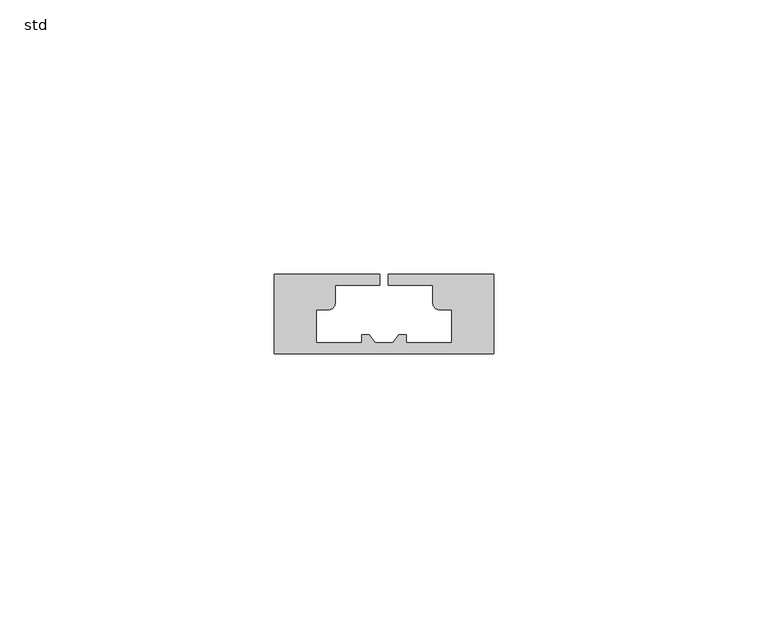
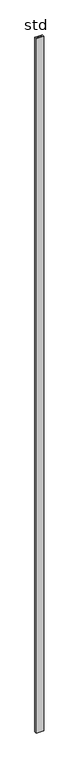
"""IFC4 building model written with IfcOpenShell, lengths in millimetres: column geometry, NLRS_21_COL_drager ST.014_Storax : std."""

import ifcopenshell
import ifcopenshell.guid

model = None  # the IFC model being written
_history = None  # IfcOwnerHistory: only IFC2X3 demands one
_inside = {}  # id of a spatial element -> (the spatial element, [elements in it])
_under = {}  # id of a project, library or spatial element -> (it, [spatial elements below it])
_declared = {}  # id of a project -> (the project, [libraries it declares])
_typed = {}  # id of a type object -> (the type object, [elements of that type])
_made_of = {}  # id of a material, layer set ... -> (it, [elements and type objects made of it])


def new_model(schema):
    """Start an empty IFC model of exactly this schema.

    Asked for "IFC4X3", IfcOpenShell would pick the latest addendum, in which some entities
    have other attributes; the version numbers below select the first issue.
    IFC2X3 requires an IfcOwnerHistory on every rooted entity: one is made here for all.
    """
    global model, _history
    if schema == "IFC4X3":
        model = ifcopenshell.file(schema_version=(4, 3, 0, 0))
    else:
        model = ifcopenshell.file(schema=schema)
    _inside.clear()
    _under.clear()
    _declared.clear()
    _typed.clear()
    _made_of.clear()
    _history = None
    if model.schema == "IFC2X3":
        org = make("IfcOrganization", Name="unknown")
        user = make(
            "IfcPersonAndOrganization",
            ThePerson=make("IfcPerson", FamilyName="unknown"),
            TheOrganization=org,
        )
        app = make(
            "IfcApplication",
            ApplicationDeveloper=org,
            Version="unknown",
            ApplicationFullName="unknown",
            ApplicationIdentifier="unknown",
        )
        _history = make(
            "IfcOwnerHistory",
            OwningUser=user,
            OwningApplication=app,
            ChangeAction="ADDED",
            CreationDate=0,
        )
    return model


def make(cls, **values):
    """One entity of the class cls with the attributes given. An attribute that is None is left unset."""
    return model.create_entity(
        cls, **{name: value for name, value in values.items() if value is not None}
    )


def rooted(cls, **values):
    """An entity with a GlobalId (a new one), such as an element, a storey or a relation."""
    return make(cls, GlobalId=ifcopenshell.guid.new(), OwnerHistory=_history, **values)


def si_unit(unit_type, name, prefix=None):
    """IfcSIUnit, for example si_unit("LENGTHUNIT", "METRE", prefix="MILLI")."""
    return make("IfcSIUnit", UnitType=unit_type, Prefix=prefix, Name=name)


def assignment(units):
    """IfcUnitAssignment: the units of a project."""
    return None if units is None else make("IfcUnitAssignment", Units=units)


def point(xyz):
    """IfcCartesianPoint."""
    return None if xyz is None else make("IfcCartesianPoint", Coordinates=xyz)


def direction(xyz):
    """IfcDirection."""
    return None if xyz is None else make("IfcDirection", DirectionRatios=xyz)


def frame(location, z_axis=None, x_axis=None):
    """IfcAxis2Placement3D, a coordinate frame: its origin and axes. An axis left out is left unset."""
    return make(
        "IfcAxis2Placement3D",
        Location=point(location),
        Axis=direction(z_axis),
        RefDirection=direction(x_axis),
    )


def frame_2d(location, x_axis=None):
    """IfcAxis2Placement2D, a coordinate frame in the plane: its origin and x axis."""
    return make(
        "IfcAxis2Placement2D", Location=point(location), RefDirection=direction(x_axis)
    )


def origin():
    """The frame at (0, 0, 0) with its axes left unset."""
    return frame((0.0, 0.0, 0.0))


def origin_with_axes():
    """The frame at (0, 0, 0) with the z axis (0, 0, 1) and the x axis (1, 0, 0) written out."""
    return frame((0.0, 0.0, 0.0), z_axis=(0.0, 0.0, 1.0), x_axis=(1.0, 0.0, 0.0))


def place(relative_to, where):
    """IfcLocalPlacement: puts the frame where relative to a parent placement (None: the world)."""
    return make(
        "IfcLocalPlacement", PlacementRelTo=relative_to, RelativePlacement=where
    )


def context(
    kind, dimensions, precision=None, world=None, true_north=None, identifier=None
):
    """IfcGeometricRepresentationContext, for example the 3D "Model" context."""
    return make(
        "IfcGeometricRepresentationContext",
        ContextIdentifier=identifier,
        ContextType=kind,
        CoordinateSpaceDimension=dimensions,
        Precision=precision,
        WorldCoordinateSystem=world,
        TrueNorth=true_north,
    )


def project(units=None, contexts=None):
    """IfcProject with its units and contexts."""
    return rooted(
        "IfcProject",
        Name="project",
        RepresentationContexts=contexts,
        UnitsInContext=assignment(units),
    )


def spatial(cls, under=None, at=None, **own):
    """A site, building, storey or space (cls), placed at a placement, below another one or the project."""
    s = rooted(cls, ObjectPlacement=at, **own)
    if under is not None:
        _under.setdefault(under.id(), (under, []))[1].append(s)
    return s


def polyline(points):
    """IfcPolyline through the points."""
    return make("IfcPolyline", Points=[point(p) for p in points])


def circle_curve(where, radius):
    """IfcCircle in the frame where."""
    return make("IfcCircle", Position=where, Radius=radius)


def trimmed(basis, trim1, trim2, sense, master):
    """IfcTrimmedCurve: the piece of a basis curve between two trims."""
    return make(
        "IfcTrimmedCurve",
        BasisCurve=basis,
        Trim1=trim1,
        Trim2=trim2,
        SenseAgreement=sense,
        MasterRepresentation=master,
    )


def segment(curve, same_sense, transition):
    """IfcCompositeCurveSegment."""
    return make(
        "IfcCompositeCurveSegment",
        Transition=transition,
        SameSense=same_sense,
        ParentCurve=curve,
    )


def composite_curve(segments, self_intersect=None):
    """IfcCompositeCurve: segments joined end to end."""
    return make("IfcCompositeCurve", Segments=segments, SelfIntersect=self_intersect)


def outline(outer, holes=None, kind="AREA"):
    """IfcArbitraryClosedProfileDef: a profile drawn as a closed curve; with holes, ...WithVoids."""
    if holes is None:
        return make("IfcArbitraryClosedProfileDef", ProfileType=kind, OuterCurve=outer)
    return make(
        "IfcArbitraryProfileDefWithVoids",
        ProfileType=kind,
        OuterCurve=outer,
        InnerCurves=holes,
    )


def extrude(swept, where, along, depth):
    """IfcExtrudedAreaSolid: the profile swept, set in the frame where, extruded along a direction by depth."""
    return make(
        "IfcExtrudedAreaSolid",
        SweptArea=swept,
        Position=where,
        ExtrudedDirection=direction(along),
        Depth=depth,
    )


def shape(context_of_items, identifier, shape_type, items):
    """IfcShapeRepresentation: the items that make up one representation, for example the "Body"."""
    return make(
        "IfcShapeRepresentation",
        ContextOfItems=context_of_items,
        RepresentationIdentifier=identifier,
        RepresentationType=shape_type,
        Items=items,
    )


def source(mapping_origin, context_of_items, identifier, shape_type, items):
    """IfcRepresentationMap: a shape defined once, which mapped items show again and again."""
    return make(
        "IfcRepresentationMap",
        MappingOrigin=mapping_origin,
        MappedRepresentation=shape(context_of_items, identifier, shape_type, items),
    )


def transform(
    local_origin,
    x_axis=None,
    y_axis=None,
    z_axis=None,
    scale=None,
    scale2=None,
    scale3=None,
    uniform=True,
):
    """IfcCartesianTransformationOperator3D, or its non-uniform kind. x_axis, y_axis, z_axis: its Axis1, 2, 3."""
    if uniform:
        return make(
            "IfcCartesianTransformationOperator3D",
            Axis1=direction(x_axis),
            Axis2=direction(y_axis),
            LocalOrigin=point(local_origin),
            Scale=scale,
            Axis3=direction(z_axis),
        )
    return make(
        "IfcCartesianTransformationOperator3DnonUniform",
        Axis1=direction(x_axis),
        Axis2=direction(y_axis),
        LocalOrigin=point(local_origin),
        Scale=scale,
        Axis3=direction(z_axis),
        Scale2=scale2,
        Scale3=scale3,
    )


def mapped(mapping_source, mapping_target):
    """IfcMappedItem: shows the shape of a source again, moved by a transform."""
    return make(
        "IfcMappedItem", MappingSource=mapping_source, MappingTarget=mapping_target
    )


def made_of(thing, what):
    """Note that an element or type object is made of a material, layer set ...; save() writes the relation."""
    if what is not None:
        _made_of.setdefault(what.id(), (what, []))[1].append(thing)
    return thing


def element(
    cls,
    number,
    at=None,
    inside=None,
    cuts=None,
    type_object=None,
    material=None,
    context=None,
    identifier="Body",
    shape_type=None,
    held_by="IfcProductDefinitionShape",
    body=None,
    shapes=None,
    **own,
):
    """One element of the class cls, such as IfcWall. Its Tag is "e" and its number.

    at: its placement. inside: the storey or other place that contains it. cuts: it is an
    opening in that element (IfcRelVoidsElement). A single representation is given by context,
    identifier, shape_type and body (its items); several are given by shapes. held_by: the class
    of the entity that holds the representations. save() writes the other relations.
    """
    e = rooted(cls, Tag="e%d" % number, ObjectPlacement=at, **own)
    if body is not None:
        shapes = [shape(context, identifier, shape_type, body)]
    if shapes is not None:
        e.Representation = make(held_by, Representations=shapes)
    if inside is not None:
        _inside.setdefault(inside.id(), (inside, []))[1].append(e)
    if cuts is not None:
        rooted(
            "IfcRelVoidsElement", RelatingBuildingElement=cuts, RelatedOpeningElement=e
        )
    if type_object is not None:
        _typed.setdefault(type_object.id(), (type_object, []))[1].append(e)
    return made_of(e, material)


def aggregate(whole, parts):
    """IfcRelAggregates: a whole, such as a stair, and the parts it consists of."""
    return rooted("IfcRelAggregates", RelatingObject=whole, RelatedObjects=parts)


def save(model, path):
    """Write the relations noted so far, then the file.

    IfcRelAggregates (storeys below a building ...), IfcRelContainedInSpatialStructure (elements
    in a storey), IfcRelDefinesByType, IfcRelAssociatesMaterial and IfcRelDeclares: one each for
    every whole, place, type object, material and project.
    """
    for whole, parts in _under.values():
        aggregate(whole, parts)
    for where, things in _inside.values():
        rooted(
            "IfcRelContainedInSpatialStructure",
            RelatedElements=things,
            RelatingStructure=where,
        )
    for kind, things in _typed.values():
        rooted("IfcRelDefinesByType", RelatedObjects=things, RelatingType=kind)
    for what, things in _made_of.values():
        rooted("IfcRelAssociatesMaterial", RelatedObjects=things, RelatingMaterial=what)
    for by, libraries in _declared.values():
        rooted("IfcRelDeclares", RelatingContext=by, RelatedDefinitions=libraries)
    model.write(path)


def std_5c565dbb(model_context):
    return source(origin(), model_context, "Body", "SweptSolid", [
        extrude(outline(composite_curve([segment(polyline([(20.0, -1.0), (20.0, -15.5), (-20.0, -15.5), (-20.0, -1.0), (-0.7528633, -1.0), (-0.7528633, -3.0), (-8.9220615, -3.0), (-8.9220615, -6.2788187)]), True, "CONTINUOUS"), segment(trimmed(circle_curve(frame_2d((-10.1231703, -6.2788187)), 1.2011087), [point((-8.9220615, -6.2788187))], [point((-10.1231703, -7.4799274))], False, "CARTESIAN"), True, "CONTINUOUS"), segment(polyline([(-10.1231703, -7.4799274), (-12.3724438, -7.4799274), (-12.3724438, -13.5), (-4.0479621, -13.5), (-4.0479621, -12.0), (-2.694768, -12.0), (-1.6049542, -13.5), (1.6049542, -13.5), (2.694768, -12.0), (4.0479621, -12.0), (4.0479621, -13.5), (12.3724438, -13.5), (12.3724438, -7.4799274), (10.1231703, -7.4799274)]), True, "CONTINUOUS"), segment(trimmed(circle_curve(frame_2d((10.1231703, -6.2788187)), 1.2011087), [point((10.1231703, -7.4799274))], [point((8.9220615, -6.2788187))], False, "CARTESIAN"), True, "CONTINUOUS"), segment(polyline([(8.9220615, -6.2788187), (8.9220615, -3.0), (0.7528633, -3.0), (0.7528633, -1.0), (20.0, -1.0)]), True, "CONTINUOUS")], self_intersect=False)), origin_with_axes(), (0.0, 0.0, 1.0), 4000.0),
    ])


if __name__ == "__main__":
    model = new_model("IFC4")
    model_context = context("Model", 3, world=origin())
    ifc_project = project(units=[si_unit("LENGTHUNIT", "METRE", prefix="MILLI")], contexts=[model_context])
    site = spatial("IfcSite", under=ifc_project)
    building = spatial("IfcBuilding", under=site)
    placement = place(None, origin())
    std_shape = std_5c565dbb(model_context)
    element("IfcColumn", 1, ObjectType="NLRS_21_COL_drager ST.014_Storax : std", at=placement, inside=building, context=model_context, shape_type="MappedRepresentation", body=[
        mapped(std_shape, transform((0.0, 0.0, 0.0), x_axis=(1.0, 0.0, 0.0), y_axis=(0.0, 1.0, 0.0), z_axis=(0.0, 0.0, 1.0))),
    ])
    save(model, "model.ifc")
